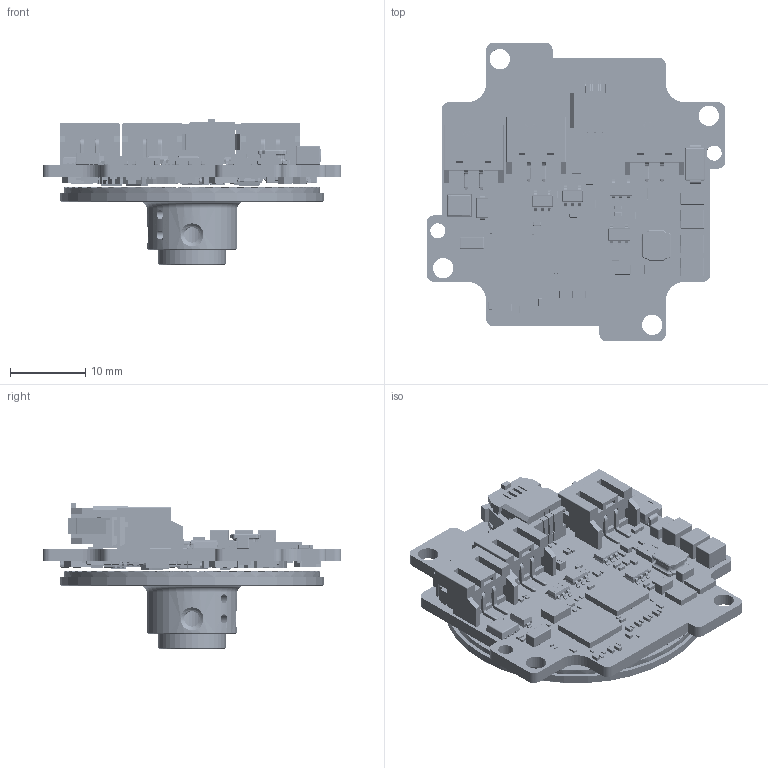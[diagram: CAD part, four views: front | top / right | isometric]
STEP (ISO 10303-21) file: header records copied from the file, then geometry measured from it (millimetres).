
FILE_DESCRIPTION(/* description */ (''),/* implementation_level */ '2;1');
FILE_NAME(/* name */ 'EAS-110 V1.5.2.stp',/* time_stamp */ '2026-07-21T10:05:28+08:00',/* author */ (''),/* organization */ (''),/* preprocessor_version */ 'ST-DEVELOPER v20',/* originating_system */ 'SIEMENS PLM Software NX2312.1700',/* authorisation */ '');
FILE_SCHEMA (('AP203_CONFIGURATION_CONTROLLED_3D_DESIGN_OF_MECHANICAL_PARTS_AND_ASSEMBLIES_MIM_LF { 1 0 10303 403 2 1 2}'));
Products named in the file (1): EAS-110码盘装配治具-22_objects
Bounding box: 39.6 x 39.6 x 19.38 mm (x, y, z)
Volume: 4957.5 mm3; surface area: 11194.7 mm2
Topology: 938 solids, 1018 shells, 16645 faces, 43148 edges, 27995 vertices
Faces by surface type: plane 11797, cylinder 3603, sphere 937, extrusion 99, torus 93, bspline 86, cone 30
Full cylindrical faces by diameter (mm): 0.15 x1, 0.3 x1, 1.2 x2, 2 x2, 2.7 x4, 5 x1, 6 x1, 9 x1, 12 x1, 22 x1, 25.2 x1, 29.4 x1, 34 x1, 35 x1
Entity records: 537131 total; most frequent: CARTESIAN_POINT 111617, ORIENTED_EDGE 81772, DIRECTION 78109, EDGE_CURVE 42478, VECTOR 32345, LINE 32246, VERTEX_POINT 27974, AXIS2_PLACEMENT_3D 22882
